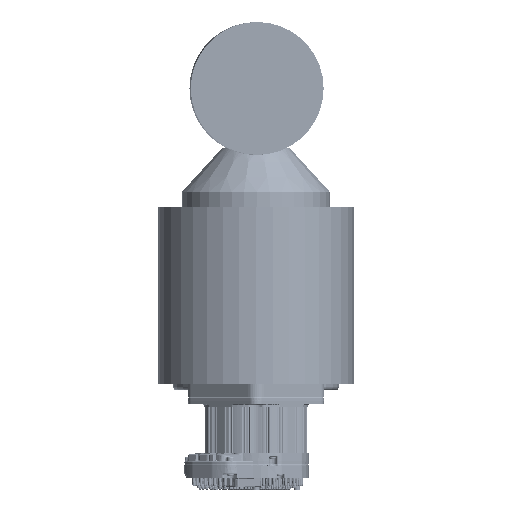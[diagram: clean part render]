
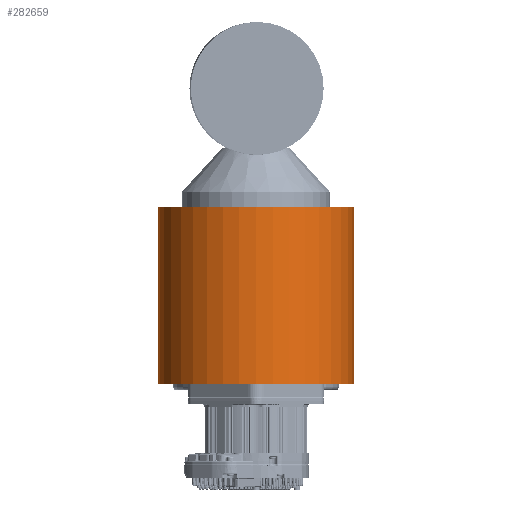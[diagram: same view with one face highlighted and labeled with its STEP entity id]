
A CAD part, front view. The second image highlights one B-rep face of the part: STEP entity #282659.
In plain terms, the highlighted cylindrical face has radius 84.138 mm (diameter 168.275 mm), a partial arc.
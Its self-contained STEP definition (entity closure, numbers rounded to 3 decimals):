
#14902 = FACE_OUTER_BOUND ( 'NONE', #197502, .T. ) ;
#38611 = ORIENTED_EDGE ( 'NONE', *, *, #220579, .F. ) ;
#44412 = LINE ( 'NONE', #197332, #131203 ) ;
#56901 = EDGE_CURVE ( 'NONE', #295541, #221199, #44412, .T. ) ;
#76500 = VERTEX_POINT ( 'NONE', #224799 ) ;
#104874 = VERTEX_POINT ( 'NONE', #122669 ) ;
#106576 = ORIENTED_EDGE ( 'NONE', *, *, #56901, .F. ) ;
#122669 = CARTESIAN_POINT ( 'NONE',  ( 84.138, 0., 0. ) ) ;
#131203 = VECTOR ( 'NONE', #403392, 1000. ) ;
#134065 = DIRECTION ( 'NONE',  ( 0., 0., -1. ) ) ;
#134440 = AXIS2_PLACEMENT_3D ( 'NONE', #421725, #179568, #181058 ) ;
#138963 = EDGE_CURVE ( 'NONE', #104874, #221199, #227139, .T. ) ;
#148541 = VECTOR ( 'NONE', #134065, 1000. ) ;
#151375 = CARTESIAN_POINT ( 'NONE',  ( 0., 0., 0. ) ) ;
#170129 = CARTESIAN_POINT ( 'NONE',  ( 0., 0., 152.4 ) ) ;
#178291 = ORIENTED_EDGE ( 'NONE', *, *, #420001, .T. ) ;
#179568 = DIRECTION ( 'NONE',  ( 0., 0., -1. ) ) ;
#181058 = DIRECTION ( 'NONE',  ( -1., 0., 0. ) ) ;
#183652 = CIRCLE ( 'NONE', #246181, 84.138 ) ;
#185865 = DIRECTION ( 'NONE',  ( 1., 0., 0. ) ) ;
#197332 = CARTESIAN_POINT ( 'NONE',  ( -84.138, 0., 152.4 ) ) ;
#197502 = EDGE_LOOP ( 'NONE', ( #38611, #178291, #382294, #106576 ) ) ;
#204664 = DIRECTION ( 'NONE',  ( 1., 0., 0. ) ) ;
#220579 = EDGE_CURVE ( 'NONE', #76500, #295541, #183652, .T. ) ;
#221199 = VERTEX_POINT ( 'NONE', #297192 ) ;
#224799 = CARTESIAN_POINT ( 'NONE',  ( 84.138, 0., 152.4 ) ) ;
#227139 = CIRCLE ( 'NONE', #446327, 84.138 ) ;
#246181 = AXIS2_PLACEMENT_3D ( 'NONE', #170129, #410761, #204664 ) ;
#274473 = LINE ( 'NONE', #374771, #148541 ) ;
#282659 = ADVANCED_FACE ( 'NONE', ( #14902 ), #348519, .T. ) ;
#295541 = VERTEX_POINT ( 'NONE', #374914 ) ;
#297192 = CARTESIAN_POINT ( 'NONE',  ( -84.138, 0., 0. ) ) ;
#348519 = CYLINDRICAL_SURFACE ( 'NONE', #134440, 84.138 ) ;
#374771 = CARTESIAN_POINT ( 'NONE',  ( 84.138, 0., 152.4 ) ) ;
#374914 = CARTESIAN_POINT ( 'NONE',  ( -84.138, 0., 152.4 ) ) ;
#382294 = ORIENTED_EDGE ( 'NONE', *, *, #138963, .T. ) ;
#391965 = DIRECTION ( 'NONE',  ( 0., 0., 1. ) ) ;
#403392 = DIRECTION ( 'NONE',  ( 0., 0., -1. ) ) ;
#410761 = DIRECTION ( 'NONE',  ( 0., 0., 1. ) ) ;
#420001 = EDGE_CURVE ( 'NONE', #76500, #104874, #274473, .T. ) ;
#421725 = CARTESIAN_POINT ( 'NONE',  ( 0., 0., 152.4 ) ) ;
#446327 = AXIS2_PLACEMENT_3D ( 'NONE', #151375, #391965, #185865 ) ;
